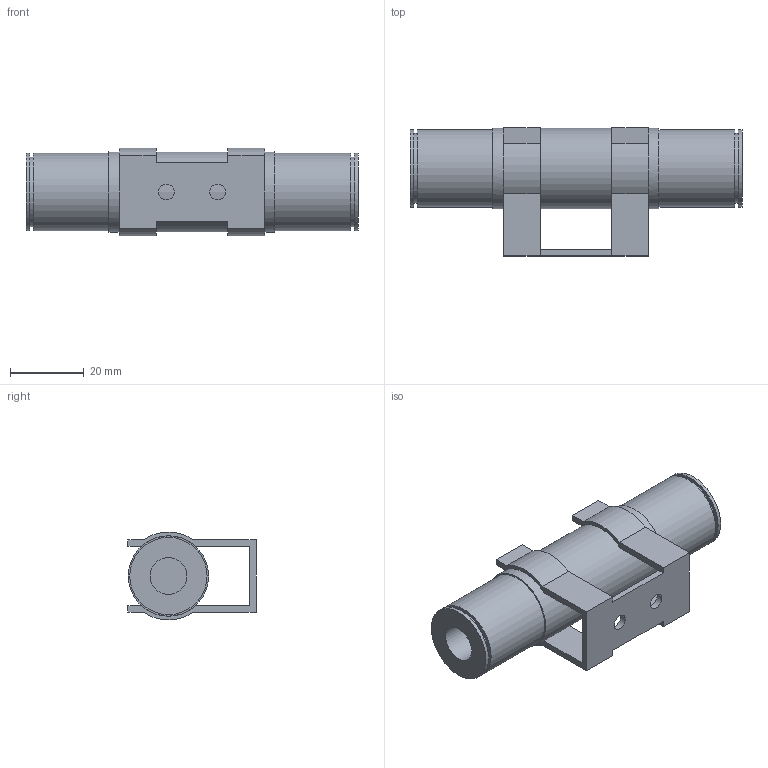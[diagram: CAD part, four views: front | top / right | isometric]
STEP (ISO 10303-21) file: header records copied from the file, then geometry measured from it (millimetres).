
FILE_DESCRIPTION(('STEP AP203'),'1');
FILE_NAME('BCVL-2010-C.stp','2025-07-18T01:01:51',(' '),(' '),'Spatial InterOp 3D',' ',' ');
FILE_SCHEMA(('CONFIG_CONTROL_DESIGN'));
Length unit declared in the file: millimetre
Products named in the file (1): 1
Bounding box: 90.2 x 34.8 x 23.81 mm (x, y, z)
Volume: 32174.9 mm3; surface area: 11824.4 mm2
Topology: 1 solids, 1 shells, 55 faces, 137 edges, 90 vertices
Faces by surface type: plane 40, cylinder 15
Full cylindrical faces by diameter (mm): 4.3 x2, 10 x2, 19 x2, 21 x4, 21.8 x1
Entity records: 1646 total; most frequent: DIRECTION 276, CARTESIAN_POINT 272, ORIENTED_EDGE 252, EDGE_CURVE 126, AXIS2_PLACEMENT_3D 94, VERTEX_POINT 90, LINE 88, VECTOR 88
